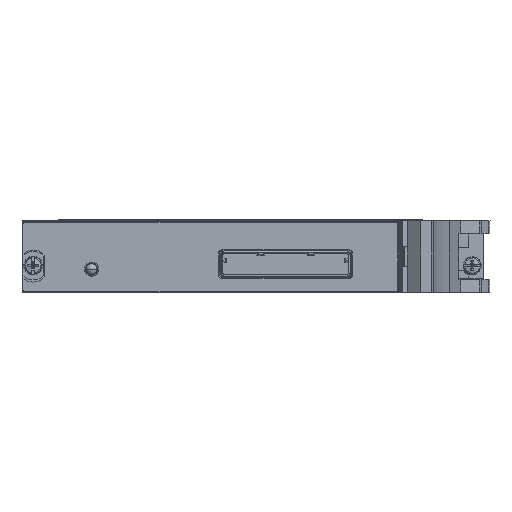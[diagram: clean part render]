
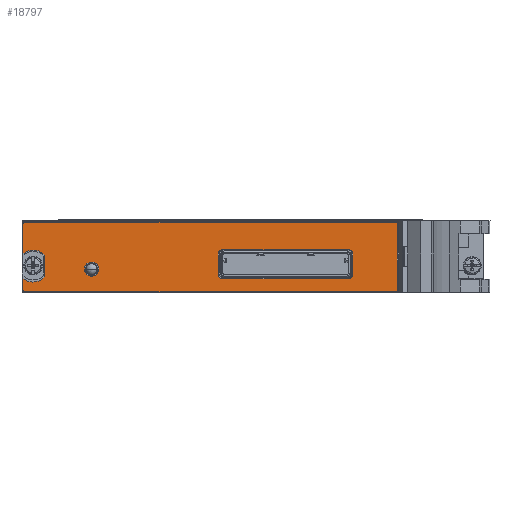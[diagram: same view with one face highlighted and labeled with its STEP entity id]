
A CAD part, left-side view. The second image highlights one B-rep face of the part: STEP entity #18797.
In plain terms, the highlighted planar face has unit normal (-1, 0, 0).
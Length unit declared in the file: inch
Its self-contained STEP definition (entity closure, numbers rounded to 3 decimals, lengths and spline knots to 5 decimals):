
#18435=CARTESIAN_POINT('',(-0.215,0.5344,0.65975));
#18436=DIRECTION('',(-1.,0.,0.));
#18437=DIRECTION('',(0.,0.,1.));
#18438=AXIS2_PLACEMENT_3D('',#18435,#18436,#18437);
#18440=DIRECTION('',(0.,1.,0.));
#18441=VECTOR('',#18440,4.07);
#18442=CARTESIAN_POINT('',(-0.215,-3.5356,0.67975));
#18443=LINE('',#18442,#18441);
#18444=CARTESIAN_POINT('',(-0.215,-3.5356,0.65975));
#18445=DIRECTION('',(-1.,0.,0.));
#18446=DIRECTION('',(0.,-1.,0.));
#18447=AXIS2_PLACEMENT_3D('',#18444,#18445,#18446);
#18449=DIRECTION('',(0.,0.,-1.));
#18450=VECTOR('',#18449,0.728);
#18451=CARTESIAN_POINT('',(-0.215,-3.5556,0.65975));
#18452=LINE('',#18451,#18450);
#18453=CARTESIAN_POINT('',(-0.215,-3.5356,-0.06825));
#18454=DIRECTION('',(-1.,0.,0.));
#18455=DIRECTION('',(0.,0.,-1.));
#18456=AXIS2_PLACEMENT_3D('',#18453,#18454,#18455);
#18458=DIRECTION('',(0.,-1.,0.));
#18459=VECTOR('',#18458,4.07);
#18460=CARTESIAN_POINT('',(-0.215,0.5344,-0.08825));
#18461=LINE('',#18460,#18459);
#18462=CARTESIAN_POINT('',(-0.215,0.5344,-0.06825));
#18463=DIRECTION('',(-1.,0.,0.));
#18464=DIRECTION('',(0.,1.,0.));
#18465=AXIS2_PLACEMENT_3D('',#18462,#18463,#18464);
#18467=DIRECTION('',(0.,0.,-1.));
#18468=VECTOR('',#18467,0.12953);
#18469=CARTESIAN_POINT('',(-0.215,0.5544,0.06128));
#18470=LINE('',#18469,#18468);
#18471=CARTESIAN_POINT('',(-0.215,0.4424,0.19575));
#18472=DIRECTION('',(1.,0.,0.));
#18473=DIRECTION('',(0.,-0.737,-0.676));
#18474=AXIS2_PLACEMENT_3D('',#18471,#18472,#18473);
#18476=DIRECTION('',(0.,0.,1.));
#18477=VECTOR('',#18476,0.23651);
#18478=CARTESIAN_POINT('',(-0.215,0.3134,0.0775));
#18479=LINE('',#18478,#18477);
#18480=CARTESIAN_POINT('',(-0.215,0.4424,0.19575));
#18481=DIRECTION('',(-1.,0.,0.));
#18482=DIRECTION('',(0.,-0.737,0.676));
#18483=AXIS2_PLACEMENT_3D('',#18480,#18481,#18482);
#18485=DIRECTION('',(0.,0.,-1.));
#18486=VECTOR('',#18485,0.32953);
#18487=CARTESIAN_POINT('',(-0.215,0.5544,0.65975));
#18488=LINE('',#18487,#18486);
#18489=CARTESIAN_POINT('',(-0.215,-0.1996,0.16175));
#18490=DIRECTION('',(-1.,0.,0.));
#18491=DIRECTION('',(0.,0.,1.));
#18492=AXIS2_PLACEMENT_3D('',#18489,#18490,#18491);
#18494=CARTESIAN_POINT('',(-0.215,-0.1996,0.16175));
#18495=DIRECTION('',(-1.,0.,0.));
#18496=DIRECTION('',(0.,0.,-1.));
#18497=AXIS2_PLACEMENT_3D('',#18494,#18495,#18496);
#18499=CARTESIAN_POINT('',(-0.215,-1.64023,0.10375));
#18500=DIRECTION('',(-1.,0.,0.));
#18501=DIRECTION('',(0.,1.,0.));
#18502=AXIS2_PLACEMENT_3D('',#18499,#18500,#18501);
#18504=DIRECTION('',(0.,-1.,0.));
#18505=VECTOR('',#18504,1.37838);
#18506=CARTESIAN_POINT('',(-0.215,-1.64023,0.05475));
#18507=LINE('',#18506,#18505);
#18508=CARTESIAN_POINT('',(-0.215,-3.01861,0.10375));
#18509=DIRECTION('',(-1.,0.,0.));
#18510=DIRECTION('',(0.,0.,-1.));
#18511=AXIS2_PLACEMENT_3D('',#18508,#18509,#18510);
#18513=DIRECTION('',(0.,0.,1.));
#18514=VECTOR('',#18513,0.225);
#18515=CARTESIAN_POINT('',(-0.215,-3.06761,0.10375));
#18516=LINE('',#18515,#18514);
#18517=CARTESIAN_POINT('',(-0.215,-3.01861,0.32875));
#18518=DIRECTION('',(-1.,0.,0.));
#18519=DIRECTION('',(0.,-1.,0.));
#18520=AXIS2_PLACEMENT_3D('',#18517,#18518,#18519);
#18522=DIRECTION('',(0.,1.,0.));
#18523=VECTOR('',#18522,1.37838);
#18524=CARTESIAN_POINT('',(-0.215,-3.01861,0.37775));
#18525=LINE('',#18524,#18523);
#18526=CARTESIAN_POINT('',(-0.215,-1.64023,0.32875));
#18527=DIRECTION('',(-1.,0.,0.));
#18528=DIRECTION('',(0.,0.,1.));
#18529=AXIS2_PLACEMENT_3D('',#18526,#18527,#18528);
#18531=DIRECTION('',(0.,0.,-1.));
#18532=VECTOR('',#18531,0.225);
#18533=CARTESIAN_POINT('',(-0.215,-1.59123,0.32875));
#18534=LINE('',#18533,#18532);
#18686=CARTESIAN_POINT('',(-0.215,0.5344,0.67975));
#18687=CARTESIAN_POINT('',(-0.215,0.5544,0.65975));
#18688=VERTEX_POINT('',#18686);
#18689=VERTEX_POINT('',#18687);
#18690=CARTESIAN_POINT('',(-0.215,0.5544,0.33022));
#18691=VERTEX_POINT('',#18690);
#18692=CARTESIAN_POINT('',(-0.215,0.3134,0.314));
#18693=VERTEX_POINT('',#18692);
#18694=CARTESIAN_POINT('',(-0.215,0.3134,0.0775));
#18695=VERTEX_POINT('',#18694);
#18696=CARTESIAN_POINT('',(-0.215,0.5544,0.06128));
#18697=VERTEX_POINT('',#18696);
#18698=CARTESIAN_POINT('',(-0.215,0.5544,-0.06825));
#18699=VERTEX_POINT('',#18698);
#18700=CARTESIAN_POINT('',(-0.215,0.5344,-0.08825));
#18701=VERTEX_POINT('',#18700);
#18702=CARTESIAN_POINT('',(-0.215,-3.5356,-0.08825));
#18703=VERTEX_POINT('',#18702);
#18704=CARTESIAN_POINT('',(-0.215,-3.5556,-0.06825));
#18705=VERTEX_POINT('',#18704);
#18706=CARTESIAN_POINT('',(-0.215,-3.5556,0.65975));
#18707=VERTEX_POINT('',#18706);
#18708=CARTESIAN_POINT('',(-0.215,-3.5356,0.67975));
#18709=VERTEX_POINT('',#18708);
#18710=CARTESIAN_POINT('',(-0.215,-0.1996,0.24025));
#18711=CARTESIAN_POINT('',(-0.215,-0.1996,0.08325));
#18712=VERTEX_POINT('',#18710);
#18713=VERTEX_POINT('',#18711);
#18726=CARTESIAN_POINT('',(-0.215,-1.59123,0.10375));
#18727=CARTESIAN_POINT('',(-0.215,-1.64023,0.05475));
#18728=VERTEX_POINT('',#18726);
#18729=VERTEX_POINT('',#18727);
#18730=CARTESIAN_POINT('',(-0.215,-3.01861,0.05475));
#18731=VERTEX_POINT('',#18730);
#18732=CARTESIAN_POINT('',(-0.215,-3.06761,0.10375));
#18733=VERTEX_POINT('',#18732);
#18734=CARTESIAN_POINT('',(-0.215,-3.06761,0.32875));
#18735=VERTEX_POINT('',#18734);
#18736=CARTESIAN_POINT('',(-0.215,-3.01861,0.37775));
#18737=VERTEX_POINT('',#18736);
#18738=CARTESIAN_POINT('',(-0.215,-1.64023,0.37775));
#18739=VERTEX_POINT('',#18738);
#18740=CARTESIAN_POINT('',(-0.215,-1.59123,0.32875));
#18741=VERTEX_POINT('',#18740);
#18742=CARTESIAN_POINT('',(-0.215,0.4424,0.19575));
#18743=DIRECTION('',(-1.,0.,0.));
#18744=DIRECTION('',(0.,0.,1.));
#18745=AXIS2_PLACEMENT_3D('',#18742,#18743,#18744);
#18746=PLANE('',#18745);
#18748=ORIENTED_EDGE('',*,*,#18747,.F.);
#18750=ORIENTED_EDGE('',*,*,#18749,.F.);
#18752=ORIENTED_EDGE('',*,*,#18751,.F.);
#18754=ORIENTED_EDGE('',*,*,#18753,.T.);
#18756=ORIENTED_EDGE('',*,*,#18755,.F.);
#18758=ORIENTED_EDGE('',*,*,#18757,.F.);
#18760=ORIENTED_EDGE('',*,*,#18759,.F.);
#18762=ORIENTED_EDGE('',*,*,#18761,.F.);
#18764=ORIENTED_EDGE('',*,*,#18763,.F.);
#18766=ORIENTED_EDGE('',*,*,#18765,.T.);
#18768=ORIENTED_EDGE('',*,*,#18767,.T.);
#18770=ORIENTED_EDGE('',*,*,#18769,.F.);
#18771=EDGE_LOOP('',(#18748,#18750,#18752,#18754,#18756,#18758,#18760,#18762,
#18764,#18766,#18768,#18770));
#18772=FACE_OUTER_BOUND('',#18771,.F.);
#18774=ORIENTED_EDGE('',*,*,#18773,.T.);
#18776=ORIENTED_EDGE('',*,*,#18775,.T.);
#18777=EDGE_LOOP('',(#18774,#18776));
#18778=FACE_BOUND('',#18777,.F.);
#18780=ORIENTED_EDGE('',*,*,#18779,.T.);
#18782=ORIENTED_EDGE('',*,*,#18781,.T.);
#18784=ORIENTED_EDGE('',*,*,#18783,.T.);
#18786=ORIENTED_EDGE('',*,*,#18785,.T.);
#18788=ORIENTED_EDGE('',*,*,#18787,.T.);
#18790=ORIENTED_EDGE('',*,*,#18789,.T.);
#18792=ORIENTED_EDGE('',*,*,#18791,.T.);
#18794=ORIENTED_EDGE('',*,*,#18793,.T.);
#18795=EDGE_LOOP('',(#18780,#18782,#18784,#18786,#18788,#18790,#18792,#18794));
#18796=FACE_BOUND('',#18795,.F.);
#18797=ADVANCED_FACE('',(#18772,#18778,#18796),#18746,.T.);
#18439=CIRCLE('',#18438,0.02);
#18448=CIRCLE('',#18447,0.02);
#18457=CIRCLE('',#18456,0.02);
#18466=CIRCLE('',#18465,0.02);
#18475=CIRCLE('',#18474,0.175);
#18484=CIRCLE('',#18483,0.175);
#18493=CIRCLE('',#18492,0.0785);
#18498=CIRCLE('',#18497,0.0785);
#18503=CIRCLE('',#18502,0.049);
#18512=CIRCLE('',#18511,0.049);
#18521=CIRCLE('',#18520,0.049);
#18530=CIRCLE('',#18529,0.049);
#18747=EDGE_CURVE('',#18688,#18689,#18439,.T.);
#18749=EDGE_CURVE('',#18709,#18688,#18443,.T.);
#18751=EDGE_CURVE('',#18707,#18709,#18448,.T.);
#18753=EDGE_CURVE('',#18707,#18705,#18452,.T.);
#18755=EDGE_CURVE('',#18703,#18705,#18457,.T.);
#18757=EDGE_CURVE('',#18701,#18703,#18461,.T.);
#18759=EDGE_CURVE('',#18699,#18701,#18466,.T.);
#18761=EDGE_CURVE('',#18697,#18699,#18470,.T.);
#18763=EDGE_CURVE('',#18695,#18697,#18475,.T.);
#18765=EDGE_CURVE('',#18695,#18693,#18479,.T.);
#18767=EDGE_CURVE('',#18693,#18691,#18484,.T.);
#18769=EDGE_CURVE('',#18689,#18691,#18488,.T.);
#18773=EDGE_CURVE('',#18712,#18713,#18493,.T.);
#18775=EDGE_CURVE('',#18713,#18712,#18498,.T.);
#18779=EDGE_CURVE('',#18728,#18729,#18503,.T.);
#18781=EDGE_CURVE('',#18729,#18731,#18507,.T.);
#18783=EDGE_CURVE('',#18731,#18733,#18512,.T.);
#18785=EDGE_CURVE('',#18733,#18735,#18516,.T.);
#18787=EDGE_CURVE('',#18735,#18737,#18521,.T.);
#18789=EDGE_CURVE('',#18737,#18739,#18525,.T.);
#18791=EDGE_CURVE('',#18739,#18741,#18530,.T.);
#18793=EDGE_CURVE('',#18741,#18728,#18534,.T.);
